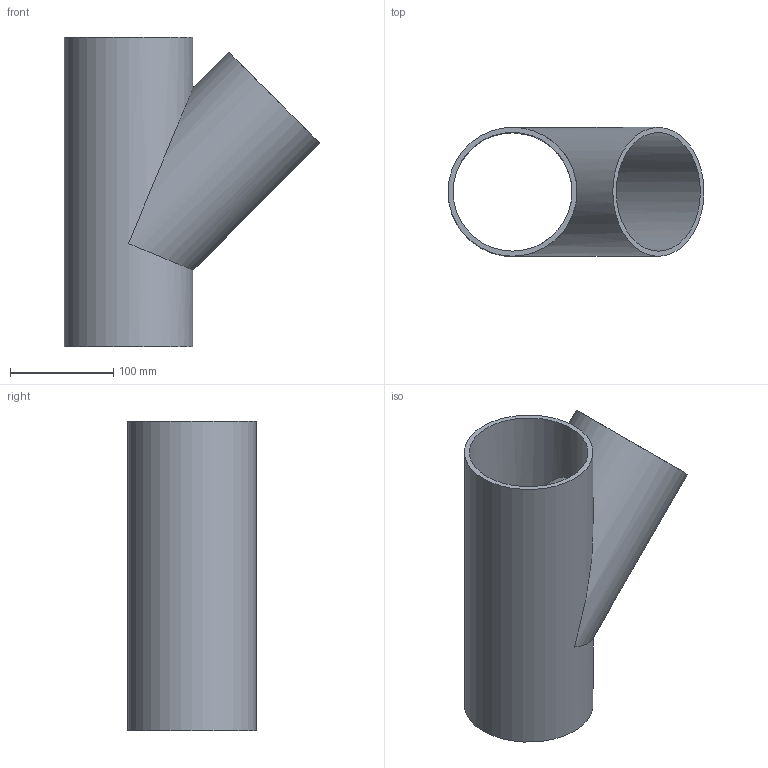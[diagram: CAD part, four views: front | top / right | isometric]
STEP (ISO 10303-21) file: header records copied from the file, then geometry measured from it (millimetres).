
FILE_DESCRIPTION(/* description */ (''),/* implementation_level */ '2;1');
FILE_NAME(/* name */ 'C:\Planerdaten\Export PLA\PRO_101557\stp\368139.stp',/* time_stamp */ '2021-09-30T15:07:36+02:00',/* author */ ('JANAN'),/* organization */ (''),/* preprocessor_version */ 'ST-DEVELOPER v16.13',/* originating_system */ 'Autodesk Inventor 2018',/* authorisation */ '');
FILE_SCHEMA (('AUTOMOTIVE_DESIGN { 1 0 10303 214 3 1 1 }'));
Length unit declared in the file: millimetre
Products named in the file (1): tmpC4B9.tmp
Bounding box: 248.12 x 125 x 300 mm (x, y, z)
Volume: 724380.7 mm3; surface area: 301121.4 mm2
Topology: 1 solids, 1 shells, 7 faces, 19 edges, 14 vertices
Faces by surface type: cylinder 4, plane 3
Full cylindrical faces by diameter (mm): 115.2 x2, 125 x2
Entity records: 228 total; most frequent: DIRECTION 36, CARTESIAN_POINT 28, ORIENTED_EDGE 20, AXIS2_PLACEMENT_3D 18, EDGE_LOOP 16, VERTEX_POINT 10, EDGE_CURVE 10, FACE_BOUND 9
